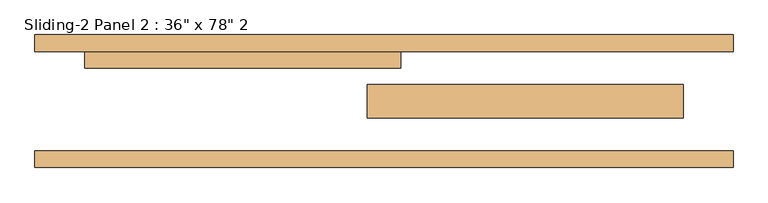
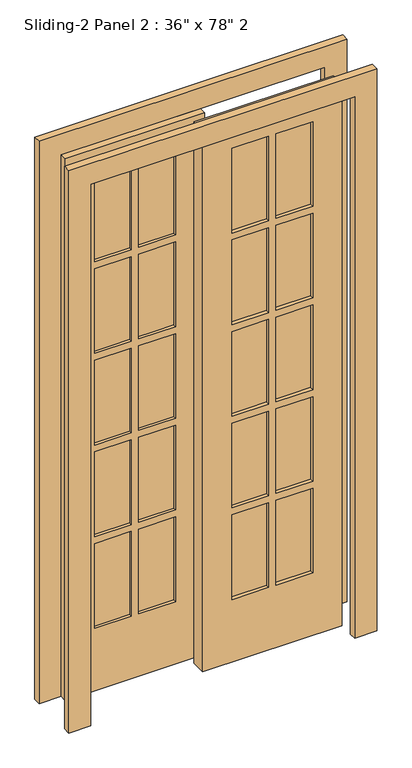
"""IFC4 building model written with IfcOpenShell, lengths in millimetres: door geometry."""

import ifcopenshell
import ifcopenshell.guid

model = None  # the IFC model being written
_history = None  # IfcOwnerHistory: only IFC2X3 demands one
_inside = {}  # id of a spatial element -> (the spatial element, [elements in it])
_under = {}  # id of a project, library or spatial element -> (it, [spatial elements below it])
_declared = {}  # id of a project -> (the project, [libraries it declares])
_typed = {}  # id of a type object -> (the type object, [elements of that type])
_made_of = {}  # id of a material, layer set ... -> (it, [elements and type objects made of it])


def new_model(schema):
    """Start an empty IFC model of exactly this schema.

    Asked for "IFC4X3", IfcOpenShell would pick the latest addendum, in which some entities
    have other attributes; the version numbers below select the first issue.
    IFC2X3 requires an IfcOwnerHistory on every rooted entity: one is made here for all.
    """
    global model, _history
    if schema == "IFC4X3":
        model = ifcopenshell.file(schema_version=(4, 3, 0, 0))
    else:
        model = ifcopenshell.file(schema=schema)
    _inside.clear()
    _under.clear()
    _declared.clear()
    _typed.clear()
    _made_of.clear()
    _history = None
    if model.schema == "IFC2X3":
        org = make("IfcOrganization", Name="unknown")
        user = make(
            "IfcPersonAndOrganization",
            ThePerson=make("IfcPerson", FamilyName="unknown"),
            TheOrganization=org,
        )
        app = make(
            "IfcApplication",
            ApplicationDeveloper=org,
            Version="unknown",
            ApplicationFullName="unknown",
            ApplicationIdentifier="unknown",
        )
        _history = make(
            "IfcOwnerHistory",
            OwningUser=user,
            OwningApplication=app,
            ChangeAction="ADDED",
            CreationDate=0,
        )
    return model


def make(cls, **values):
    """One entity of the class cls with the attributes given. An attribute that is None is left unset."""
    return model.create_entity(
        cls, **{name: value for name, value in values.items() if value is not None}
    )


def rooted(cls, **values):
    """An entity with a GlobalId (a new one), such as an element, a storey or a relation."""
    return make(cls, GlobalId=ifcopenshell.guid.new(), OwnerHistory=_history, **values)


def si_unit(unit_type, name, prefix=None):
    """IfcSIUnit, for example si_unit("LENGTHUNIT", "METRE", prefix="MILLI")."""
    return make("IfcSIUnit", UnitType=unit_type, Prefix=prefix, Name=name)


def assignment(units):
    """IfcUnitAssignment: the units of a project."""
    return None if units is None else make("IfcUnitAssignment", Units=units)


def point(xyz):
    """IfcCartesianPoint."""
    return None if xyz is None else make("IfcCartesianPoint", Coordinates=xyz)


def direction(xyz):
    """IfcDirection."""
    return None if xyz is None else make("IfcDirection", DirectionRatios=xyz)


def frame(location, z_axis=None, x_axis=None):
    """IfcAxis2Placement3D, a coordinate frame: its origin and axes. An axis left out is left unset."""
    return make(
        "IfcAxis2Placement3D",
        Location=point(location),
        Axis=direction(z_axis),
        RefDirection=direction(x_axis),
    )


def origin():
    """The frame at (0, 0, 0) with its axes left unset."""
    return frame((0.0, 0.0, 0.0))


def place(relative_to, where):
    """IfcLocalPlacement: puts the frame where relative to a parent placement (None: the world)."""
    return make(
        "IfcLocalPlacement", PlacementRelTo=relative_to, RelativePlacement=where
    )


def context(
    kind, dimensions, precision=None, world=None, true_north=None, identifier=None
):
    """IfcGeometricRepresentationContext, for example the 3D "Model" context."""
    return make(
        "IfcGeometricRepresentationContext",
        ContextIdentifier=identifier,
        ContextType=kind,
        CoordinateSpaceDimension=dimensions,
        Precision=precision,
        WorldCoordinateSystem=world,
        TrueNorth=true_north,
    )


def project(units=None, contexts=None):
    """IfcProject with its units and contexts."""
    return rooted(
        "IfcProject",
        Name="project",
        RepresentationContexts=contexts,
        UnitsInContext=assignment(units),
    )


def spatial(cls, under=None, at=None, **own):
    """A site, building, storey or space (cls), placed at a placement, below another one or the project."""
    s = rooted(cls, ObjectPlacement=at, **own)
    if under is not None:
        _under.setdefault(under.id(), (under, []))[1].append(s)
    return s


def polyline(points):
    """IfcPolyline through the points."""
    return make("IfcPolyline", Points=[point(p) for p in points])


def outline(outer, holes=None, kind="AREA"):
    """IfcArbitraryClosedProfileDef: a profile drawn as a closed curve; with holes, ...WithVoids."""
    if holes is None:
        return make("IfcArbitraryClosedProfileDef", ProfileType=kind, OuterCurve=outer)
    return make(
        "IfcArbitraryProfileDefWithVoids",
        ProfileType=kind,
        OuterCurve=outer,
        InnerCurves=holes,
    )


def extrude(swept, where, along, depth):
    """IfcExtrudedAreaSolid: the profile swept, set in the frame where, extruded along a direction by depth."""
    return make(
        "IfcExtrudedAreaSolid",
        SweptArea=swept,
        Position=where,
        ExtrudedDirection=direction(along),
        Depth=depth,
    )


def shape(context_of_items, identifier, shape_type, items):
    """IfcShapeRepresentation: the items that make up one representation, for example the "Body"."""
    return make(
        "IfcShapeRepresentation",
        ContextOfItems=context_of_items,
        RepresentationIdentifier=identifier,
        RepresentationType=shape_type,
        Items=items,
    )


def source(mapping_origin, context_of_items, identifier, shape_type, items):
    """IfcRepresentationMap: a shape defined once, which mapped items show again and again."""
    return make(
        "IfcRepresentationMap",
        MappingOrigin=mapping_origin,
        MappedRepresentation=shape(context_of_items, identifier, shape_type, items),
    )


def transform(
    local_origin,
    x_axis=None,
    y_axis=None,
    z_axis=None,
    scale=None,
    scale2=None,
    scale3=None,
    uniform=True,
):
    """IfcCartesianTransformationOperator3D, or its non-uniform kind. x_axis, y_axis, z_axis: its Axis1, 2, 3."""
    if uniform:
        return make(
            "IfcCartesianTransformationOperator3D",
            Axis1=direction(x_axis),
            Axis2=direction(y_axis),
            LocalOrigin=point(local_origin),
            Scale=scale,
            Axis3=direction(z_axis),
        )
    return make(
        "IfcCartesianTransformationOperator3DnonUniform",
        Axis1=direction(x_axis),
        Axis2=direction(y_axis),
        LocalOrigin=point(local_origin),
        Scale=scale,
        Axis3=direction(z_axis),
        Scale2=scale2,
        Scale3=scale3,
    )


def mapped(mapping_source, mapping_target):
    """IfcMappedItem: shows the shape of a source again, moved by a transform."""
    return make(
        "IfcMappedItem", MappingSource=mapping_source, MappingTarget=mapping_target
    )


def made_of(thing, what):
    """Note that an element or type object is made of a material, layer set ...; save() writes the relation."""
    if what is not None:
        _made_of.setdefault(what.id(), (what, []))[1].append(thing)
    return thing


def element(
    cls,
    number,
    at=None,
    inside=None,
    cuts=None,
    type_object=None,
    material=None,
    context=None,
    identifier="Body",
    shape_type=None,
    held_by="IfcProductDefinitionShape",
    body=None,
    shapes=None,
    **own,
):
    """One element of the class cls, such as IfcWall. Its Tag is "e" and its number.

    at: its placement. inside: the storey or other place that contains it. cuts: it is an
    opening in that element (IfcRelVoidsElement). A single representation is given by context,
    identifier, shape_type and body (its items); several are given by shapes. held_by: the class
    of the entity that holds the representations. save() writes the other relations.
    """
    e = rooted(cls, Tag="e%d" % number, ObjectPlacement=at, **own)
    if body is not None:
        shapes = [shape(context, identifier, shape_type, body)]
    if shapes is not None:
        e.Representation = make(held_by, Representations=shapes)
    if inside is not None:
        _inside.setdefault(inside.id(), (inside, []))[1].append(e)
    if cuts is not None:
        rooted(
            "IfcRelVoidsElement", RelatingBuildingElement=cuts, RelatedOpeningElement=e
        )
    if type_object is not None:
        _typed.setdefault(type_object.id(), (type_object, []))[1].append(e)
    return made_of(e, material)


def aggregate(whole, parts):
    """IfcRelAggregates: a whole, such as a stair, and the parts it consists of."""
    return rooted("IfcRelAggregates", RelatingObject=whole, RelatedObjects=parts)


def save(model, path):
    """Write the relations noted so far, then the file.

    IfcRelAggregates (storeys below a building ...), IfcRelContainedInSpatialStructure (elements
    in a storey), IfcRelDefinesByType, IfcRelAssociatesMaterial and IfcRelDeclares: one each for
    every whole, place, type object, material and project.
    """
    for whole, parts in _under.values():
        aggregate(whole, parts)
    for where, things in _inside.values():
        rooted(
            "IfcRelContainedInSpatialStructure",
            RelatedElements=things,
            RelatingStructure=where,
        )
    for kind, things in _typed.values():
        rooted("IfcRelDefinesByType", RelatedObjects=things, RelatingType=kind)
    for what, things in _made_of.values():
        rooted("IfcRelAssociatesMaterial", RelatedObjects=things, RelatingMaterial=what)
    for by, libraries in _declared.values():
        rooted("IfcRelDeclares", RelatingContext=by, RelatedDefinitions=libraries)
    model.write(path)


def door_dc43bb5d(model_context):
    return source(origin(), model_context, "Body", "SweptSolid", [
        extrude(outline(polyline([(228.6, 139.4293121), (355.6, 139.4293121), (355.6, 114.8534681), (228.6, 114.8534681), (228.6, 139.4293121)])), frame((0.0, 0.0, 1569.72), z_axis=(0.0, 0.0, 1.0), x_axis=(1.0, 0.0, 0.0)), (0.0, 0.0, 1.0), 309.88),
        extrude(outline(polyline([(76.2, 139.4293121), (203.2, 139.4293121), (203.2, 114.8534681), (76.2, 114.8534681), (76.2, 139.4293121)])), frame((0.0, 0.0, 1569.72), z_axis=(0.0, 0.0, 1.0), x_axis=(1.0, 0.0, 0.0)), (0.0, 0.0, 1.0), 309.88),
        extrude(outline(polyline([(228.6, 139.4293121), (355.6, 139.4293121), (355.6, 114.8534681), (228.6, 114.8534681), (228.6, 139.4293121)])), frame((0.0, 0.0, 1234.44), z_axis=(0.0, 0.0, 1.0), x_axis=(1.0, 0.0, 0.0)), (0.0, 0.0, 1.0), 309.88),
        extrude(outline(polyline([(76.2, 139.4293121), (203.2, 139.4293121), (203.2, 114.8534681), (76.2, 114.8534681), (76.2, 139.4293121)])), frame((0.0, 0.0, 1234.44), z_axis=(0.0, 0.0, 1.0), x_axis=(1.0, 0.0, 0.0)), (0.0, 0.0, 1.0), 309.88),
        extrude(outline(polyline([(228.6, 139.4293121), (355.6, 139.4293121), (355.6, 114.8534681), (228.6, 114.8534681), (228.6, 139.4293121)])), frame((0.0, 0.0, 899.16), z_axis=(0.0, 0.0, 1.0), x_axis=(1.0, 0.0, 0.0)), (0.0, 0.0, 1.0), 309.88),
        extrude(outline(polyline([(76.2, 139.4293121), (203.2, 139.4293121), (203.2, 114.8534681), (76.2, 114.8534681), (76.2, 139.4293121)])), frame((0.0, 0.0, 899.16), z_axis=(0.0, 0.0, 1.0), x_axis=(1.0, 0.0, 0.0)), (0.0, 0.0, 1.0), 309.88),
        extrude(outline(polyline([(228.6, 139.4293121), (355.6, 139.4293121), (355.6, 114.8534681), (228.6, 114.8534681), (228.6, 139.4293121)])), frame((0.0, 0.0, 563.88), z_axis=(0.0, 0.0, 1.0), x_axis=(1.0, 0.0, 0.0)), (0.0, 0.0, 1.0), 309.88),
        extrude(outline(polyline([(76.2, 139.4293121), (203.2, 139.4293121), (203.2, 114.8534681), (76.2, 114.8534681), (76.2, 139.4293121)])), frame((0.0, 0.0, 563.88), z_axis=(0.0, 0.0, 1.0), x_axis=(1.0, 0.0, 0.0)), (0.0, 0.0, 1.0), 309.88),
        extrude(outline(polyline([(228.6, 139.4293121), (355.6, 139.4293121), (355.6, 114.8534681), (228.6, 114.8534681), (228.6, 139.4293121)])), frame((0.0, 0.0, 228.6), z_axis=(0.0, 0.0, 1.0), x_axis=(1.0, 0.0, 0.0)), (0.0, 0.0, 1.0), 309.88),
        extrude(outline(polyline([(76.2, 139.4293121), (203.2, 139.4293121), (203.2, 114.8534681), (76.2, 114.8534681), (76.2, 139.4293121)])), frame((0.0, 0.0, 228.6), z_axis=(0.0, 0.0, 1.0), x_axis=(1.0, 0.0, 0.0)), (0.0, 0.0, 1.0), 309.88),
        extrude(outline(polyline([(-228.6, 188.2711448), (-355.6, 188.2711448), (-355.6, 190.5), (-228.6, 190.5), (-228.6, 188.2711448)])), frame((0.0, 0.0, 1569.72), z_axis=(0.0, 0.0, 1.0), x_axis=(1.0, 0.0, 0.0)), (0.0, 0.0, 1.0), 309.88),
        extrude(outline(polyline([(-76.2, 188.2711448), (-203.2, 188.2711448), (-203.2, 190.5), (-76.2, 190.5), (-76.2, 188.2711448)])), frame((0.0, 0.0, 1569.72), z_axis=(0.0, 0.0, 1.0), x_axis=(1.0, 0.0, 0.0)), (0.0, 0.0, 1.0), 309.88),
        extrude(outline(polyline([(-76.2, 188.2711448), (-203.2, 188.2711448), (-203.2, 190.5), (-76.2, 190.5), (-76.2, 188.2711448)])), frame((0.0, 0.0, 1234.44), z_axis=(0.0, 0.0, 1.0), x_axis=(1.0, 0.0, 0.0)), (0.0, 0.0, 1.0), 309.88),
        extrude(outline(polyline([(-228.6, 188.2711448), (-355.6, 188.2711448), (-355.6, 190.5), (-228.6, 190.5), (-228.6, 188.2711448)])), frame((0.0, 0.0, 1234.44), z_axis=(0.0, 0.0, 1.0), x_axis=(1.0, 0.0, 0.0)), (0.0, 0.0, 1.0), 309.88),
        extrude(outline(polyline([(-76.2, 188.2711448), (-203.2, 188.2711448), (-203.2, 190.5), (-76.2, 190.5), (-76.2, 188.2711448)])), frame((0.0, 0.0, 899.16), z_axis=(0.0, 0.0, 1.0), x_axis=(1.0, 0.0, 0.0)), (0.0, 0.0, 1.0), 309.88),
        extrude(outline(polyline([(-228.6, 188.2711448), (-355.6, 188.2711448), (-355.6, 190.5), (-228.6, 190.5), (-228.6, 188.2711448)])), frame((0.0, 0.0, 899.16), z_axis=(0.0, 0.0, 1.0), x_axis=(1.0, 0.0, 0.0)), (0.0, 0.0, 1.0), 309.88),
        extrude(outline(polyline([(-76.2, 188.2711448), (-203.2, 188.2711448), (-203.2, 190.5), (-76.2, 190.5), (-76.2, 188.2711448)])), frame((0.0, 0.0, 563.88), z_axis=(0.0, 0.0, 1.0), x_axis=(1.0, 0.0, 0.0)), (0.0, 0.0, 1.0), 309.88),
        extrude(outline(polyline([(-228.6, 188.2711448), (-355.6, 188.2711448), (-355.6, 190.5), (-228.6, 190.5), (-228.6, 188.2711448)])), frame((0.0, 0.0, 563.88), z_axis=(0.0, 0.0, 1.0), x_axis=(1.0, 0.0, 0.0)), (0.0, 0.0, 1.0), 309.88),
        extrude(outline(polyline([(-228.6, 188.2711448), (-355.6, 188.2711448), (-355.6, 190.5), (-228.6, 190.5), (-228.6, 188.2711448)])), frame((0.0, 0.0, 228.6), z_axis=(0.0, 0.0, 1.0), x_axis=(1.0, 0.0, 0.0)), (0.0, 0.0, 1.0), 309.88),
        extrude(outline(polyline([(-76.2, 188.2711448), (-203.2, 188.2711448), (-203.2, 190.5), (-76.2, 190.5), (-76.2, 188.2711448)])), frame((0.0, 0.0, 228.6), z_axis=(0.0, 0.0, 1.0), x_axis=(1.0, 0.0, 0.0)), (0.0, 0.0, 1.0), 309.88),
        extrude(outline(polyline([(1981.2, -457.2), (0.0, -457.2), (0.0, 25.4), (1981.2, 25.4), (1981.2, -457.2)]), holes=[polyline([(228.6, -228.6), (228.6, -355.6), (538.48, -355.6), (538.48, -228.6), (228.6, -228.6)]), polyline([(1569.72, -355.6), (1879.6, -355.6), (1879.6, -228.6), (1569.72, -228.6), (1569.72, -355.6)]), polyline([(1879.6, -203.2), (1879.6, -76.2), (1569.72, -76.2), (1569.72, -203.2), (1879.6, -203.2)]), polyline([(538.48, -76.2), (228.6, -76.2), (228.6, -203.2), (538.48, -203.2), (538.48, -76.2)]), polyline([(1544.32, -228.6), (1234.44, -228.6), (1234.44, -355.6), (1544.32, -355.6), (1544.32, -228.6)]), polyline([(1209.04, -228.6), (899.16, -228.6), (899.16, -355.6), (1209.04, -355.6), (1209.04, -228.6)]), polyline([(873.76, -228.6), (563.88, -228.6), (563.88, -355.6), (873.76, -355.6), (873.76, -228.6)]), polyline([(1544.32, -76.2), (1234.44, -76.2), (1234.44, -203.2), (1544.32, -203.2), (1544.32, -76.2)]), polyline([(899.16, -203.2), (1209.04, -203.2), (1209.04, -76.2), (899.16, -76.2), (899.16, -203.2)]), polyline([(563.88, -203.2), (873.76, -203.2), (873.76, -76.2), (563.88, -76.2), (563.88, -203.2)])]), frame((0.0, 177.8, 0.0), z_axis=(0.0, 1.0, 0.0), x_axis=(0.0, 0.0, 1.0)), (0.0, 0.0, 1.0), 25.4),
        extrude(outline(polyline([(1981.2, -25.4), (0.0, -25.4), (0.0, 457.2), (1981.2, 457.2), (1981.2, -25.4)]), holes=[polyline([(1879.6, 228.6), (1879.6, 355.6), (1569.72, 355.6), (1569.72, 228.6), (1879.6, 228.6)]), polyline([(538.48, 355.6), (228.6, 355.6), (228.6, 228.6), (538.48, 228.6), (538.48, 355.6)]), polyline([(228.6, 203.2), (228.6, 76.2), (538.48, 76.2), (538.48, 203.2), (228.6, 203.2)]), polyline([(1569.72, 76.2), (1879.6, 76.2), (1879.6, 203.2), (1569.72, 203.2), (1569.72, 76.2)]), polyline([(1544.32, 228.6), (1544.32, 355.6), (1234.44, 355.6), (1234.44, 228.6), (1544.32, 228.6)]), polyline([(1209.04, 228.6), (1209.04, 355.6), (899.16, 355.6), (899.16, 228.6), (1209.04, 228.6)]), polyline([(899.16, 203.2), (899.16, 76.2), (1209.04, 76.2), (1209.04, 203.2), (899.16, 203.2)]), polyline([(873.76, 203.2), (563.88, 203.2), (563.88, 76.2), (873.76, 76.2), (873.76, 203.2)]), polyline([(563.88, 228.6), (873.76, 228.6), (873.76, 355.6), (563.88, 355.6), (563.88, 228.6)]), polyline([(1234.44, 76.2), (1544.32, 76.2), (1544.32, 203.2), (1234.44, 203.2), (1234.44, 76.2)])]), frame((0.0, 101.6, 0.0), z_axis=(0.0, 1.0, 0.0), x_axis=(0.0, 0.0, 1.0)), (0.0, 0.0, 1.0), 50.8),
        extrude(outline(polyline([(0.0, -533.4), (0.0, -457.2), (1981.2, -457.2), (1981.2, 457.2), (0.0, 457.2), (0.0, 533.4), (2057.4, 533.4), (2057.4, -533.4), (0.0, -533.4)])), frame((0.0, 25.4, 0.0), z_axis=(0.0, 1.0, 0.0), x_axis=(0.0, 0.0, 1.0)), (0.0, 0.0, 1.0), 25.4),
        extrude(outline(polyline([(0.0, 533.4), (2057.4, 533.4), (2057.4, -533.4), (0.0, -533.4), (0.0, -457.2), (1981.2, -457.2), (1981.2, 457.2), (0.0, 457.2), (0.0, 533.4)])), frame((0.0, 203.2, 0.0), z_axis=(0.0, 1.0, 0.0), x_axis=(0.0, 0.0, 1.0)), (0.0, 0.0, 1.0), 25.4),
    ])


if __name__ == "__main__":
    model = new_model("IFC4")
    model_context = context("Model", 3, world=origin())
    ifc_project = project(units=[si_unit("LENGTHUNIT", "METRE", prefix="MILLI")], contexts=[model_context])
    site = spatial("IfcSite", under=ifc_project)
    building = spatial("IfcBuilding", under=site)
    placement = place(None, origin())
    door_shape = door_dc43bb5d(model_context)
    element("IfcDoor", 1, ObjectType="Sliding-2 Panel 2 : 36\" x 78\" 2", at=placement, inside=building, context=model_context, shape_type="MappedRepresentation", body=[
        mapped(door_shape, transform((0.0, 0.0, 0.0), x_axis=(1.0, 0.0, 0.0), y_axis=(0.0, 1.0, 0.0), z_axis=(0.0, 0.0, 1.0))),
    ])
    save(model, "model.ifc")
